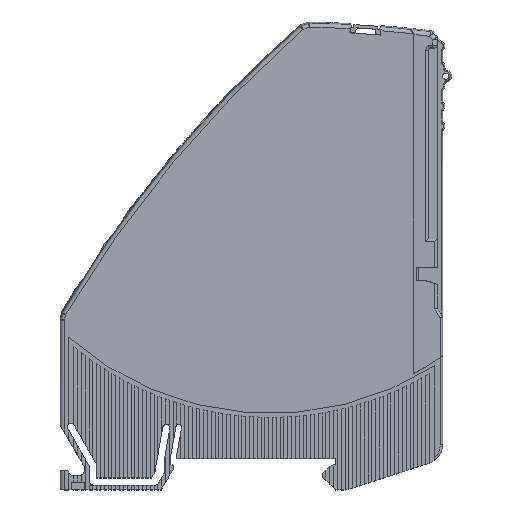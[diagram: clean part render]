
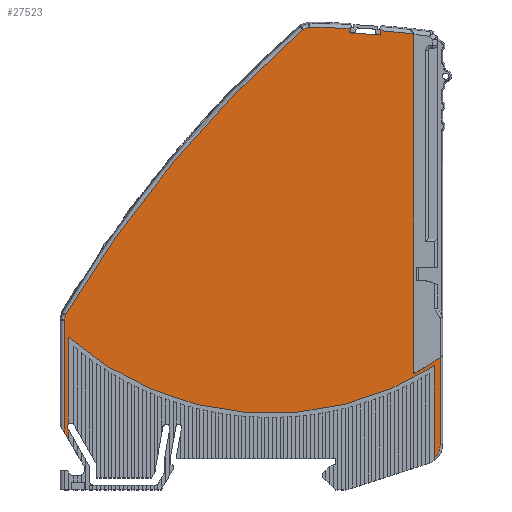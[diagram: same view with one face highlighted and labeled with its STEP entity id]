
A CAD part, top view. The second image highlights one B-rep face of the part: STEP entity #27523.
In plain terms, the highlighted planar face has unit normal (0, 0, 1).
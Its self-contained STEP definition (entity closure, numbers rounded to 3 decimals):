
#2285=CARTESIAN_POINT('',(-37.748,6.7,6.15));
#2286=DIRECTION('',(0.,0.,-1.));
#2287=DIRECTION('',(-0.866,-0.5,0.));
#2288=AXIS2_PLACEMENT_3D('',#2285,#2286,#2287);
#5646=CARTESIAN_POINT('',(38.3,0.268,6.15));
#5652=DIRECTION('',(0.,-1.,0.));
#5653=VECTOR('',#5652,19.2);
#5654=CARTESIAN_POINT('',(38.3,19.468,6.15));
#5655=LINE('',#5654,#5653);
#5660=CARTESIAN_POINT('',(36.,2.906,6.15));
#5661=DIRECTION('',(0.,0.,1.));
#5662=DIRECTION('',(0.657,-0.754,0.));
#5663=AXIS2_PLACEMENT_3D('',#5660,#5661,#5662);
#5665=CARTESIAN_POINT('',(4.,73.5,6.15));
#5666=DIRECTION('',(0.,0.,1.));
#5667=DIRECTION('',(-0.661,-0.75,0.));
#5668=AXIS2_PLACEMENT_3D('',#5665,#5666,#5667);
#5670=DIRECTION('',(0.5,-0.866,0.));
#5671=VECTOR('',#5670,0.282);
#5672=CARTESIAN_POINT('',(-38.441,6.3,6.15));
#5673=LINE('',#5672,#5671);
#5674=DIRECTION('',(0.5,-0.866,0.));
#5675=VECTOR('',#5674,1.8);
#5676=CARTESIAN_POINT('',(-39.2,5.614,6.15));
#5677=LINE('',#5676,#5675);
#5678=DIRECTION('',(0.,1.,0.));
#5679=VECTOR('',#5678,23.431);
#5680=CARTESIAN_POINT('',(-39.2,5.614,6.15));
#5681=LINE('',#5680,#5679);
#5682=CARTESIAN_POINT('',(-39.2,29.046,6.15));
#5683=CARTESIAN_POINT('',(-39.166,29.169,6.15));
#5684=CARTESIAN_POINT('',(-39.099,29.415,6.15));
#5685=CARTESIAN_POINT('',(-38.998,29.785,6.15));
#5686=CARTESIAN_POINT('',(-38.931,30.032,6.15));
#5687=CARTESIAN_POINT('',(-38.897,30.156,6.15));
#5689=CARTESIAN_POINT('',(173.121,-95.689,6.15));
#5690=DIRECTION('',(0.,0.,-1.));
#5691=DIRECTION('',(-0.86,0.51,0.));
#5692=AXIS2_PLACEMENT_3D('',#5689,#5690,#5691);
#5694=CARTESIAN_POINT('',(10.744,89.843,6.15));
#5695=CARTESIAN_POINT('',(11.212,90.014,6.15));
#5696=CARTESIAN_POINT('',(11.681,90.184,6.15));
#5697=CARTESIAN_POINT('',(12.15,90.355,6.15));
#5699=CARTESIAN_POINT('',(7.,-158.5,6.15));
#5700=DIRECTION('',(0.,0.,-1.));
#5701=DIRECTION('',(0.021,1.,0.));
#5702=AXIS2_PLACEMENT_3D('',#5699,#5700,#5701);
#5704=DIRECTION('',(-0.07,-0.998,0.));
#5705=VECTOR('',#5704,0.881);
#5706=CARTESIAN_POINT('',(20.66,90.033,6.15));
#5707=LINE('',#5706,#5705);
#5708=DIRECTION('',(0.998,-0.07,0.));
#5709=VECTOR('',#5708,6.46);
#5710=CARTESIAN_POINT('',(20.598,89.154,6.15));
#5711=LINE('',#5710,#5709);
#5712=DIRECTION('',(0.07,0.998,0.));
#5713=VECTOR('',#5712,0.894);
#5714=CARTESIAN_POINT('',(27.042,88.704,6.15));
#5715=LINE('',#5714,#5713);
#5716=CARTESIAN_POINT('',(7.,-158.5,6.15));
#5717=DIRECTION('',(0.,0.,-1.));
#5718=DIRECTION('',(0.081,0.997,0.));
#5719=AXIS2_PLACEMENT_3D('',#5716,#5717,#5718);
#5721=DIRECTION('',(0.,-1.,0.));
#5722=VECTOR('',#5721,71.177);
#5723=CARTESIAN_POINT('',(33.827,88.958,6.15));
#5724=LINE('',#5723,#5722);
#5725=DIRECTION('',(0.,1.,0.));
#5726=VECTOR('',#5725,18.306);
#5727=CARTESIAN_POINT('',(39.5,2.906,6.15));
#5728=LINE('',#5727,#5726);
#5729=DIRECTION('',(0.,1.,0.));
#5730=VECTOR('',#5729,18.192);
#5731=CARTESIAN_POINT('',(-38.3,7.279,6.15));
#5732=LINE('',#5731,#5730);
#5749=DIRECTION('',(0.,1.,0.));
#5750=VECTOR('',#5749,2.);
#5751=CARTESIAN_POINT('',(-38.3,4.056,6.15));
#5752=LINE('',#5751,#5750);
#8855=CARTESIAN_POINT('',(4.,73.5,6.15));
#8856=DIRECTION('',(0.,0.,-1.));
#8857=DIRECTION('',(0.562,-0.827,0.));
#8858=AXIS2_PLACEMENT_3D('',#8855,#8856,#8857);
#8919=CARTESIAN_POINT('',(33.827,17.781,6.15));
#16778=CARTESIAN_POINT('',(-38.3,25.472,6.15));
#16779=CARTESIAN_POINT('',(38.3,19.468,6.15));
#16780=VERTEX_POINT('',#16778);
#16781=VERTEX_POINT('',#16779);
#17526=CARTESIAN_POINT('',(-38.3,4.056,6.15));
#17527=VERTEX_POINT('',#17526);
#18078=CARTESIAN_POINT('',(-38.3,6.056,6.15));
#18079=VERTEX_POINT('',#18078);
#18140=CARTESIAN_POINT('',(20.598,89.154,6.15));
#18141=CARTESIAN_POINT('',(27.042,88.704,6.15));
#18142=VERTEX_POINT('',#18140);
#18143=VERTEX_POINT('',#18141);
#18261=CARTESIAN_POINT('',(12.15,90.355,6.15));
#18262=CARTESIAN_POINT('',(20.66,90.033,6.15));
#18263=VERTEX_POINT('',#18261);
#18264=VERTEX_POINT('',#18262);
#18271=VERTEX_POINT('',#5694);
#18274=CARTESIAN_POINT('',(-38.897,30.156,6.15));
#18275=VERTEX_POINT('',#18274);
#18281=VERTEX_POINT('',#5682);
#18284=CARTESIAN_POINT('',(-39.2,5.614,6.15));
#18285=VERTEX_POINT('',#18284);
#18298=CARTESIAN_POINT('',(27.105,89.595,6.15));
#18299=VERTEX_POINT('',#18298);
#18312=VERTEX_POINT('',#5646);
#18313=CARTESIAN_POINT('',(39.5,2.906,6.15));
#18314=VERTEX_POINT('',#18313);
#18321=CARTESIAN_POINT('',(39.5,21.212,6.15));
#18322=VERTEX_POINT('',#18321);
#18350=VERTEX_POINT('',#8919);
#18361=CARTESIAN_POINT('',(33.827,88.958,6.15));
#18362=VERTEX_POINT('',#18361);
#19206=CARTESIAN_POINT('',(-38.3,7.279,6.15));
#19208=VERTEX_POINT('',#19206);
#19216=CARTESIAN_POINT('',(-38.441,6.3,6.15));
#19217=VERTEX_POINT('',#19216);
#27482=CARTESIAN_POINT('',(0.,0.,6.15));
#27483=DIRECTION('',(0.,0.,1.));
#27484=DIRECTION('',(1.,0.,0.));
#27485=AXIS2_PLACEMENT_3D('',#27482,#27483,#27484);
#27486=PLANE('',#27485);
#27487=ORIENTED_EDGE('',*,*,#27445,.F.);
#27488=ORIENTED_EDGE('',*,*,#27463,.F.);
#27489=ORIENTED_EDGE('',*,*,#27473,.F.);
#27491=ORIENTED_EDGE('',*,*,#27490,.F.);
#27492=ORIENTED_EDGE('',*,*,#23113,.F.);
#27493=ORIENTED_EDGE('',*,*,#23171,.T.);
#27495=ORIENTED_EDGE('',*,*,#27494,.F.);
#27496=ORIENTED_EDGE('',*,*,#21522,.F.);
#27498=ORIENTED_EDGE('',*,*,#27497,.T.);
#27500=ORIENTED_EDGE('',*,*,#27499,.T.);
#27502=ORIENTED_EDGE('',*,*,#27501,.T.);
#27504=ORIENTED_EDGE('',*,*,#27503,.T.);
#27506=ORIENTED_EDGE('',*,*,#27505,.T.);
#27508=ORIENTED_EDGE('',*,*,#27507,.T.);
#27510=ORIENTED_EDGE('',*,*,#27509,.T.);
#27512=ORIENTED_EDGE('',*,*,#27511,.T.);
#27514=ORIENTED_EDGE('',*,*,#27513,.T.);
#27516=ORIENTED_EDGE('',*,*,#27515,.T.);
#27518=ORIENTED_EDGE('',*,*,#27517,.F.);
#27520=ORIENTED_EDGE('',*,*,#27519,.F.);
#27521=EDGE_LOOP('',(#27487,#27488,#27489,#27491,#27492,#27493,#27495,#27496,
#27498,#27500,#27502,#27504,#27506,#27508,#27510,#27512,#27514,#27516,#27518,
#27520));
#27522=FACE_OUTER_BOUND('',#27521,.F.);
#2289=CIRCLE('',#2288,0.8);
#5664=CIRCLE('',#5663,3.5);
#5669=CIRCLE('',#5668,64.);
#5688=B_SPLINE_CURVE_WITH_KNOTS('',3,(#5682,#5683,#5684,#5685,#5686,#5687),
.UNSPECIFIED.,.F.,.F.,(4,1,1,4),(0.,0.333,0.667,1.),
.UNSPECIFIED.);
#5693=CIRCLE('',#5692,246.553);
#5698=B_SPLINE_CURVE_WITH_KNOTS('',3,(#5694,#5695,#5696,#5697),.UNSPECIFIED.,
.F.,.F.,(4,4),(0.,1.),.UNSPECIFIED.);
#5703=CIRCLE('',#5702,248.908);
#5720=CIRCLE('',#5719,248.908);
#8859=CIRCLE('',#8858,63.2);
#21522=EDGE_CURVE('',#18285,#17527,#5677,.T.);
#23113=EDGE_CURVE('',#19217,#19208,#2289,.T.);
#23171=EDGE_CURVE('',#19217,#18079,#5673,.T.);
#27445=EDGE_CURVE('',#18312,#18314,#5664,.T.);
#27463=EDGE_CURVE('',#16781,#18312,#5655,.T.);
#27473=EDGE_CURVE('',#16780,#16781,#5669,.T.);
#27490=EDGE_CURVE('',#19208,#16780,#5732,.T.);
#27494=EDGE_CURVE('',#17527,#18079,#5752,.T.);
#27497=EDGE_CURVE('',#18285,#18281,#5681,.T.);
#27499=EDGE_CURVE('',#18281,#18275,#5688,.T.);
#27501=EDGE_CURVE('',#18275,#18271,#5693,.T.);
#27503=EDGE_CURVE('',#18271,#18263,#5698,.T.);
#27505=EDGE_CURVE('',#18263,#18264,#5703,.T.);
#27507=EDGE_CURVE('',#18264,#18142,#5707,.T.);
#27509=EDGE_CURVE('',#18142,#18143,#5711,.T.);
#27511=EDGE_CURVE('',#18143,#18299,#5715,.T.);
#27513=EDGE_CURVE('',#18299,#18362,#5720,.T.);
#27515=EDGE_CURVE('',#18362,#18350,#5724,.T.);
#27517=EDGE_CURVE('',#18322,#18350,#8859,.T.);
#27519=EDGE_CURVE('',#18314,#18322,#5728,.T.);
#27523=ADVANCED_FACE('',(#27522),#27486,.T.);
